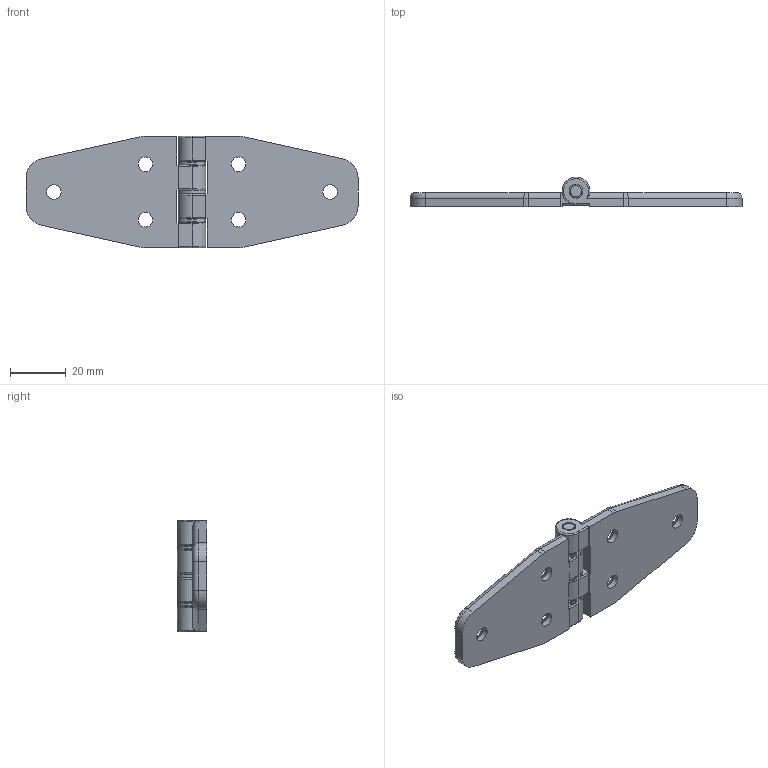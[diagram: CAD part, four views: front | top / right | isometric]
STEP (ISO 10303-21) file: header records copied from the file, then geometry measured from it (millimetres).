
FILE_DESCRIPTION(/* description */ (''),/* implementation_level */ '2;1');
FILE_NAME(/* name */ '\\NAS\db20\HC40120\DR_HC40120.stp',/* time_stamp */ '2017-08-23T10:37:44+09:00',/* author */ ('user'),/* organization */ (''),/* preprocessor_version */ 'ST-DEVELOPER v15.6',/* originating_system */ 'Autodesk Inventor 2015',/* authorisation */ '');
FILE_SCHEMA (('AUTOMOTIVE_DESIGN { 1 0 10303 214 3 1 1 }'));
Length unit declared in the file: millimetre
Products named in the file (3): DR_HC40120; DR_HC4065-PIN
Bounding box: 119.5 x 10.5 x 40 mm (x, y, z)
Volume: 19678 mm3; surface area: 11706.5 mm2
Topology: 3 solids, 3 shells, 117 faces, 283 edges, 178 vertices
Faces by surface type: cylinder 47, plane 40, torus 24, cone 6
Full cylindrical faces by diameter (mm): 5 x8, 5.2 x6, 10 x3
Entity records: 1974 total; most frequent: DIRECTION 353, CARTESIAN_POINT 350, ORIENTED_EDGE 268, AXIS2_PLACEMENT_3D 148, EDGE_CURVE 134, EDGE_LOOP 109, VERTEX_POINT 97, CIRCLE 72
